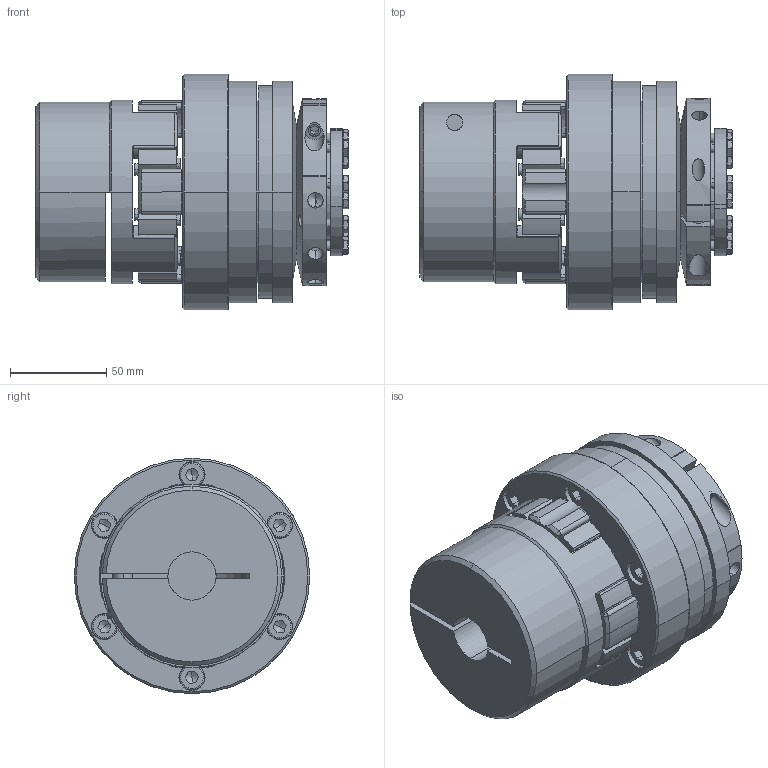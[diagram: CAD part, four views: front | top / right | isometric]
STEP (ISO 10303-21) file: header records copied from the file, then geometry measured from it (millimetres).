
FILE_DESCRIPTION(('STEP AP214'),'1');
FILE_NAME('3_116_dss_sg_n_d25-e_t1___gas_sg_d25-b__92_sh-a.stp','2024-04-16T08:08:16',('TraceParts'),('TraceParts S.A.'),'Spatial InterOp 3D',' ',' ');
FILE_SCHEMA(('AUTOMOTIVE_DESIGN { 1 0 10303 214 1 1 1 1 }'));
Length unit declared in the file: millimetre
Products named in the file (1): 3_116_dss_sg_n_d25-e_t1___gas_sg_d25-b__92_sh-a
Bounding box: 161.8 x 122 x 122 mm (x, y, z)
Volume: 1043156.1 mm3; surface area: 217863.9 mm2
Topology: 11 solids, 11 shells, 1030 faces, 2820 edges, 1829 vertices
Faces by surface type: cylinder 420, plane 245, torus 184, cone 181
Entity records: 42974 total; most frequent: CARTESIAN_POINT 7699, DIRECTION 6138, ORIENTED_EDGE 5576, EDGE_CURVE 2788, AXIS2_PLACEMENT_3D 2623, VERTEX_POINT 1826, CIRCLE 1582, EDGE_LOOP 1170
